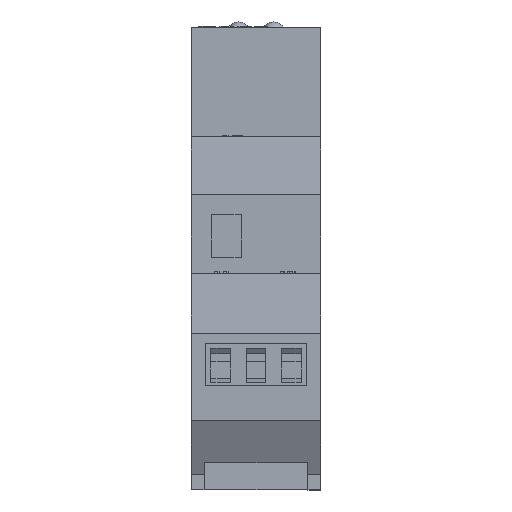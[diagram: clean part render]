
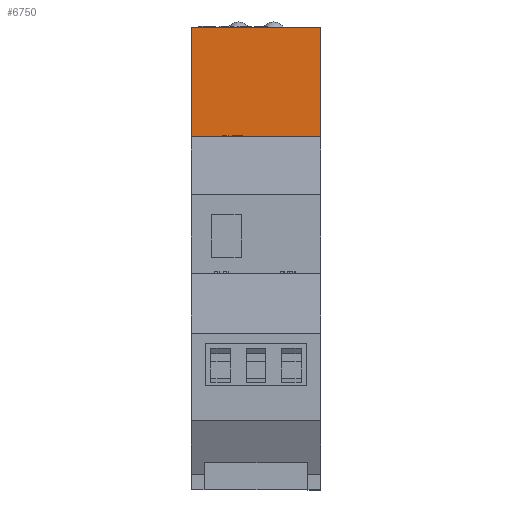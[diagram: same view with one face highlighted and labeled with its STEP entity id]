
A CAD part, front view. The second image highlights one B-rep face of the part: STEP entity #6750.
In plain terms, the highlighted planar face has unit normal (0, -1, 0).
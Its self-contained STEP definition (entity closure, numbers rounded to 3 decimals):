
#1132 = VERTEX_POINT ( 'NONE', #20918 ) ;
#1143 = ORIENTED_EDGE ( 'NONE', *, *, #16262, .T. ) ;
#2109 = CARTESIAN_POINT ( 'NONE',  ( 8.95, -22.5, 16.9 ) ) ;
#2456 = CARTESIAN_POINT ( 'NONE',  ( -8.95, -22.5, 32. ) ) ;
#3692 = ORIENTED_EDGE ( 'NONE', *, *, #15540, .F. ) ;
#4124 = PLANE ( 'NONE',  #10933 ) ;
#5236 = VERTEX_POINT ( 'NONE', #2456 ) ;
#6251 = DIRECTION ( 'NONE',  ( 0., 0., 1. ) ) ;
#6278 = VECTOR ( 'NONE', #15020, 1000. ) ;
#6750 = ADVANCED_FACE ( 'NONE', ( #12401 ), #4124, .F. ) ;
#6907 = VECTOR ( 'NONE', #17046, 1000. ) ;
#7585 = LINE ( 'NONE', #2109, #6907 ) ;
#9258 = DIRECTION ( 'NONE',  ( 1., 0., 0. ) ) ;
#10826 = EDGE_LOOP ( 'NONE', ( #1143, #23291, #3692, #20763 ) ) ;
#10933 = AXIS2_PLACEMENT_3D ( 'NONE', #27586, #19098, #6251 ) ;
#12401 = FACE_OUTER_BOUND ( 'NONE', #10826, .T. ) ;
#12486 = CARTESIAN_POINT ( 'NONE',  ( -8.95, -22.5, 16.9 ) ) ;
#14174 = EDGE_CURVE ( 'NONE', #17504, #26130, #22675, .T. ) ;
#15020 = DIRECTION ( 'NONE',  ( 1., 0., 0. ) ) ;
#15540 = EDGE_CURVE ( 'NONE', #17504, #5236, #27411, .T. ) ;
#15558 = LINE ( 'NONE', #26121, #26283 ) ;
#16262 = EDGE_CURVE ( 'NONE', #26130, #1132, #7585, .T. ) ;
#17046 = DIRECTION ( 'NONE',  ( 0., 0., 1. ) ) ;
#17504 = VERTEX_POINT ( 'NONE', #21966 ) ;
#18987 = DIRECTION ( 'NONE',  ( 0., 0., 1. ) ) ;
#19098 = DIRECTION ( 'NONE',  ( 0., 1., 0. ) ) ;
#20331 = EDGE_CURVE ( 'NONE', #5236, #1132, #15558, .T. ) ;
#20763 = ORIENTED_EDGE ( 'NONE', *, *, #14174, .T. ) ;
#20918 = CARTESIAN_POINT ( 'NONE',  ( 8.95, -22.5, 32. ) ) ;
#21559 = CARTESIAN_POINT ( 'NONE',  ( -8.95, -22.5, 16.9 ) ) ;
#21693 = VECTOR ( 'NONE', #18987, 1000. ) ;
#21966 = CARTESIAN_POINT ( 'NONE',  ( -8.95, -22.5, 16.9 ) ) ;
#22675 = LINE ( 'NONE', #21559, #6278 ) ;
#23291 = ORIENTED_EDGE ( 'NONE', *, *, #20331, .F. ) ;
#26121 = CARTESIAN_POINT ( 'NONE',  ( -8.95, -22.5, 32. ) ) ;
#26130 = VERTEX_POINT ( 'NONE', #26150 ) ;
#26150 = CARTESIAN_POINT ( 'NONE',  ( 8.95, -22.5, 16.9 ) ) ;
#26283 = VECTOR ( 'NONE', #9258, 1000. ) ;
#27411 = LINE ( 'NONE', #12486, #21693 ) ;
#27586 = CARTESIAN_POINT ( 'NONE',  ( -8.95, -22.5, 16.9 ) ) ;
